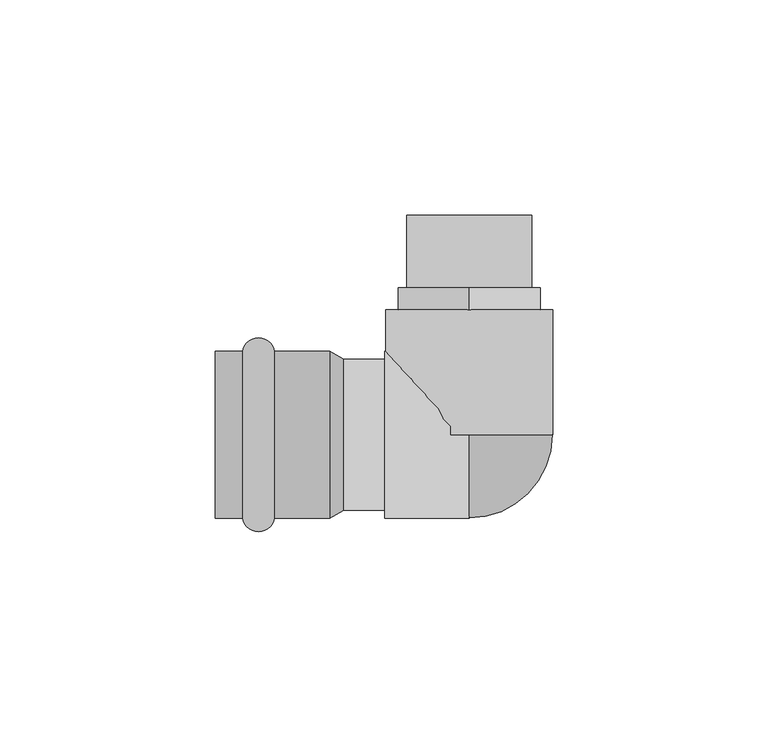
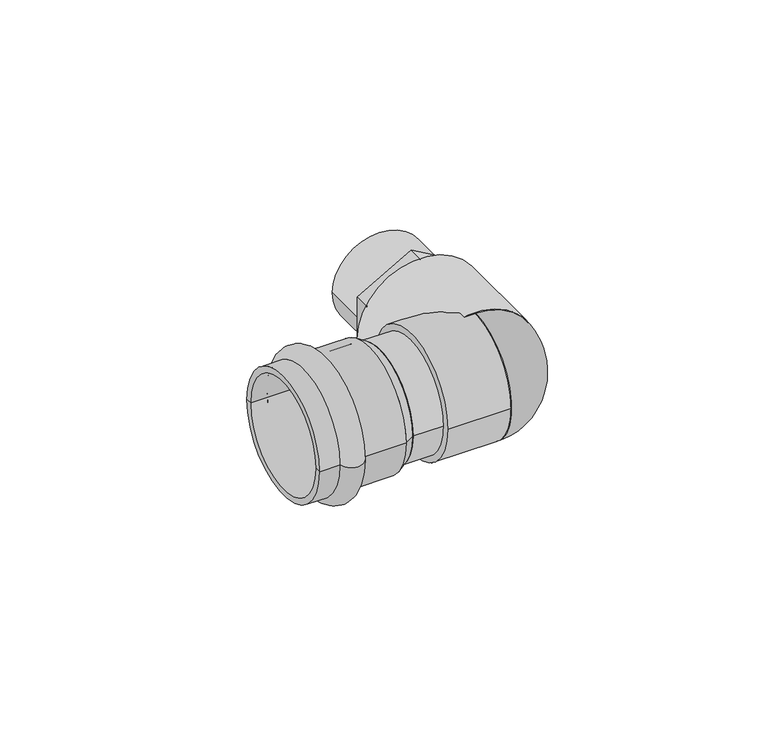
"""IFC4 building model written with IfcOpenShell, lengths in millimetres: pipe fitting geometry, VALTEC_VTi.953.I_Угольник с переходом на наружную резьбу нержавеющая сталь : VTi.953.I."""

from ifc_helpers import new_model, si_unit, point, frame, origin, origin_2d, place, context, project, spatial, polyline, circle_curve, ellipse_curve, trimmed, segment, composite_curve, outline, extrude, source, transform, mapped, element, save
from ifc_brep_helpers import plane_surface, cylinder_surface, revolved_surface, advanced_brep


def pipe_fitting_752e0839(model_context):
    return source(origin(), model_context, "Body", "SolidModel", [
        advanced_brep(
        [(-52.6432371, -19.4, 0.0), (-52.6432371, 19.4, 0.0), (-45.2567629, 19.4, 0.0), (-45.2567629, -19.4, 0.0), (-59.0, -19.4, 0.0), (-59.0, 19.4, 0.0), (-59.0, -17.5, 0.0), (-59.0, 17.5, 0.0), (-32.45, -17.5, 0.0), (-32.45, 17.5, 0.0), (-32.45, -19.4, 0.0), (-32.45, 19.4, 0.0)],
        [
            (0, 1, circle_curve(frame((-52.6432371, 0.0, 0.0), z_axis=(1.0, 0.0, 0.0), x_axis=(0.0, 1.0, 0.0)), 19.4)),
            (1, 2, circle_curve(frame((-48.95, 18.75, 0.0), z_axis=(0.0, 0.0, -1.0), x_axis=(1.0, 0.0, 0.0)), 3.75)),
            (2, 3, circle_curve(frame((-45.2567629, 0.0, 0.0), z_axis=(-1.0, 0.0, 0.0), x_axis=(0.0, 1.0, 0.0)), 19.4)),
            (3, 0, circle_curve(frame((-48.95, -18.75, 0.0), z_axis=(0.0, 0.0, -1.0), x_axis=(1.0, 0.0, 0.0)), 3.75)),
            (1, 0, circle_curve(frame((-52.6432371, 0.0, 0.0), z_axis=(1.0, 0.0, 0.0), x_axis=(0.0, 1.0, 0.0)), 19.4)),
            (3, 2, circle_curve(frame((-45.2567629, 0.0, 0.0), z_axis=(-1.0, 0.0, 0.0), x_axis=(0.0, 1.0, 0.0)), 19.4)),
            (4, 5, circle_curve(frame((-59.0, 0.0, 0.0), z_axis=(1.0, 0.0, 0.0), x_axis=(0.0, 1.0, 0.0)), 19.4)),
            (5, 1),
            (0, 4),
            (5, 4, circle_curve(frame((-59.0, 0.0, 0.0), z_axis=(1.0, 0.0, 0.0), x_axis=(0.0, 1.0, 0.0)), 19.4)),
            (6, 7, circle_curve(frame((-59.0, 0.0, 0.0), z_axis=(1.0, 0.0, 0.0), x_axis=(0.0, 1.0, 0.0)), 17.5)),
            (7, 5),
            (4, 6),
            (7, 6, circle_curve(frame((-59.0, 0.0, 0.0), z_axis=(1.0, 0.0, 0.0), x_axis=(0.0, 1.0, 0.0)), 17.5)),
            (8, 9, circle_curve(frame((-32.45, 0.0, 0.0), z_axis=(1.0, 0.0, 0.0), x_axis=(0.0, 1.0, 0.0)), 17.5)),
            (9, 7),
            (6, 8),
            (9, 8, circle_curve(frame((-32.45, 0.0, 0.0), z_axis=(1.0, 0.0, 0.0), x_axis=(0.0, 1.0, 0.0)), 17.5)),
            (10, 11, circle_curve(frame((-32.45, 0.0, 0.0), z_axis=(1.0, 0.0, 0.0), x_axis=(0.0, 1.0, 0.0)), 19.4)),
            (11, 9),
            (8, 10),
            (11, 10, circle_curve(frame((-32.45, 0.0, 0.0), z_axis=(1.0, 0.0, 0.0), x_axis=(0.0, 1.0, 0.0)), 19.4)),
            (2, 11),
            (10, 3),
        ],
        [
            revolved_surface(trimmed(ellipse_curve(frame((-48.95, 18.75, 0.0), z_axis=(0.0, 0.0, 1.0), x_axis=(1.0, 0.0, 0.0)), 3.75, 3.75), [point((-45.2567629, 19.4, 0.0))], [point((-52.6432371, 19.4, 0.0))], True, "CARTESIAN"), (-62.5364426, 0.0, 0.0), (-1.0, 0.0, 0.0)),
            cylinder_surface(frame((-62.5364426, 0.0, 0.0), z_axis=(-1.0, 0.0, 0.0), x_axis=(0.0, 1.0, 0.0)), 19.4),
            plane_surface(frame((-59.0, 0.0, 0.0), z_axis=(-1.0, 0.0, 0.0), x_axis=(0.0, 1.0, 0.0))),
            revolved_surface(polyline([(-59.0, 17.5, 0.0), (-32.45, 17.5, 0.0)]), (-62.5364426, 0.0, 0.0), (-1.0, 0.0, 0.0)),
            plane_surface(frame((-32.45, 0.0, 0.0), z_axis=(1.0, 0.0, 0.0), x_axis=(0.0, 1.0, 0.0))),
        ],
        [
            (0, [[1, 2, 3, 4]]),
            (0, [[5, -4, 6, -2]]),
            (1, [[7, 8, -1, 9]]),
            (1, [[10, -9, -5, -8]]),
            (2, [[11, 12, -7, 13]]),
            (2, [[14, -13, -10, -12]]),
            (3, [[15, 16, -11, 17]]),
            (3, [[18, -17, -14, -16]]),
            (4, [[19, 20, -15, 21]]),
            (4, [[22, -21, -18, -20]]),
            (1, [[-3, 23, -19, 24]]),
            (1, [[-6, -24, -22, -23]]),
        ],
    ),
        extrude(outline(composite_curve([segment(trimmed(circle_curve(origin_2d(), 14.5), [point((0.0, -14.5))], [point((0.0, 14.5))], False, "CARTESIAN"), True, "CONTINUOUS"), segment(trimmed(circle_curve(origin_2d(), 14.5), [point((0.0, 14.5))], [point((0.0, -14.5))], False, "CARTESIAN"), True, "CONTINUOUS")], self_intersect=False), holes=[composite_curve([segment(trimmed(circle_curve(origin_2d(), 12.5), [point((0.0, -12.5))], [point((0.0, 12.5))], True, "CARTESIAN"), True, "CONTINUOUS"), segment(trimmed(circle_curve(origin_2d(), 12.5), [point((0.0, 12.5))], [point((0.0, -12.5))], True, "CARTESIAN"), True, "CONTINUOUS")], self_intersect=False)]), frame((0.0, 34.1428571, 0.0), z_axis=(0.0, 1.0, 0.0), x_axis=(0.0, 0.0, 1.0)), (0.0, 0.0, 1.0), 16.8571429),
        extrude(outline(polyline([(19.0525589, 0.0), (9.5262794, -16.5), (-9.5262794, -16.5), (-19.0525589, 0.0), (-9.5262794, 16.5), (9.5262794, 16.5), (19.0525589, 0.0)]), holes=[composite_curve([segment(trimmed(circle_curve(origin_2d(), 12.5), [point((0.0, -12.5))], [point((0.0, 12.5))], True, "CARTESIAN"), True, "CONTINUOUS"), segment(trimmed(circle_curve(origin_2d(), 12.5), [point((0.0, 12.5))], [point((0.0, -12.5))], True, "CARTESIAN"), True, "CONTINUOUS")], self_intersect=False)]), frame((0.0, 29.0857143, 0.0), z_axis=(0.0, 1.0, 0.0), x_axis=(0.0, 0.0, 1.0)), (0.0, 0.0, 1.0), 5.0571429),
        extrude(outline(composite_curve([segment(trimmed(circle_curve(origin_2d(), 19.4), [point((0.0, -19.4))], [point((0.0, 19.4))], False, "CARTESIAN"), True, "CONTINUOUS"), segment(trimmed(circle_curve(origin_2d(), 19.4), [point((0.0, 19.4))], [point((0.0, -19.4))], False, "CARTESIAN"), True, "CONTINUOUS")], self_intersect=False)), frame((0.0, 0.0, 0.0), z_axis=(0.0, 1.0, 0.0), x_axis=(0.0, 0.0, 1.0)), (0.0, 0.0, 1.0), 29.0857143),
        advanced_brep(
        [(0.0, 0.0, -19.4), (0.0, 0.0, 19.4)],
        [
            (0, 1, circle_curve(frame((0.0, 0.0, 0.0), z_axis=(-1.0, 0.0, 0.0), x_axis=(0.0, -1.0, 0.0)), 19.4)),
            (1, 0),
            (1, 0, circle_curve(frame((0.0, 0.0, 0.0), z_axis=(0.0, 1.0, 0.0), x_axis=(1.0, 0.0, 0.0)), 19.4)),
        ],
        [
            plane_surface(frame((0.0, 0.0, 26.4086047), z_axis=(-1.0, 0.0, 0.0), x_axis=(0.0, -1.0, 0.0))),
            plane_surface(frame((0.0, 0.0, 26.4086047), z_axis=(0.0, 1.0, 0.0), x_axis=(1.0, 0.0, 0.0))),
            revolved_surface(trimmed(ellipse_curve(frame((0.0, 0.0, 0.0), z_axis=(-1.0, 0.0, 0.0), x_axis=(0.0, -1.0, 0.0)), 19.4, 19.4), [point((0.0, 0.0, -19.4))], [point((0.0, 0.0, 19.4))], True, "CARTESIAN"), (0.0, 0.0, 26.4086047), (0.0, 0.0, 1.0)),
        ],
        [
            (0, [[1, 2]]),
            (1, [[3, -2]]),
            (2, [[-1, -3]]),
        ],
    ),
        extrude(outline(composite_curve([segment(trimmed(circle_curve(origin_2d(), 19.4), [point((-19.4, 0.0))], [point((19.4, 0.0))], False, "CARTESIAN"), True, "CONTINUOUS"), segment(trimmed(circle_curve(origin_2d(), 19.4), [point((19.4, 0.0))], [point((-19.4, 0.0))], False, "CARTESIAN"), True, "CONTINUOUS")], self_intersect=False)), frame((-19.6390217, 0.0, 0.0), z_axis=(1.0, 0.0, 0.0), x_axis=(0.0, 1.0, 0.0)), (0.0, 0.0, 1.0), 19.6390217),
        extrude(outline(composite_curve([segment(trimmed(circle_curve(origin_2d(), 17.5), [point((-17.5, 0.0))], [point((17.5, 0.0))], False, "CARTESIAN"), True, "CONTINUOUS"), segment(trimmed(circle_curve(origin_2d(), 17.5), [point((17.5, 0.0))], [point((-17.5, 0.0))], False, "CARTESIAN"), True, "CONTINUOUS")], self_intersect=False)), frame((-29.205, 0.0, 0.0), z_axis=(1.0, 0.0, 0.0), x_axis=(0.0, 1.0, 0.0)), (0.0, 0.0, 1.0), 9.5659783),
        advanced_brep(
        [(-32.45, -19.4, 0.0), (-32.45, 19.4, 0.0), (-29.205, -17.5, 0.0), (-29.205, 17.5, 0.0)],
        [
            (0, 1, circle_curve(frame((-32.45, 0.0, 0.0), z_axis=(-1.0, 0.0, 0.0), x_axis=(0.0, -1.0, 0.0)), 19.4)),
            (1, 0, circle_curve(frame((-32.45, 0.0, 0.0), z_axis=(-1.0, 0.0, 0.0), x_axis=(0.0, 1.0, 0.0)), 19.4)),
            (2, 3, circle_curve(frame((-29.205, 0.0, 0.0), z_axis=(1.0, 0.0, 0.0), x_axis=(0.0, 1.0, 0.0)), 17.5)),
            (3, 2, circle_curve(frame((-29.205, 0.0, 0.0), z_axis=(1.0, 0.0, 0.0), x_axis=(0.0, -1.0, 0.0)), 17.5)),
            (2, 0),
            (1, 3),
        ],
        [
            plane_surface(frame((-32.45, 0.0, 0.0), z_axis=(-1.0, 0.0, 0.0), x_axis=(0.0, 0.0, -1.0))),
            plane_surface(frame((-29.205, 0.0, 0.0), z_axis=(1.0, 0.0, 0.0), x_axis=(0.0, 0.0, -1.0))),
            revolved_surface(polyline([(-29.205, -17.50000000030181, 0.0), (-32.45, -19.4, 0.0)]), (0.6831579, 0.0, 0.0), (-1.0, 0.0, 0.0)),
            revolved_surface(polyline([(-29.205, 17.50000000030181, 0.0), (-32.45, 19.4, 0.0)]), (0.6831579, 0.0, 0.0), (-1.0, 0.0, 0.0)),
        ],
        [
            (0, [[1, 2]]),
            (1, [[3, 4]]),
            (2, [[-3, 5, -2, 6]]),
            (3, [[-4, -6, -1, -5]]),
        ],
    ),
    ])


if __name__ == "__main__":
    model = new_model("IFC4")
    model_context = context("Model", 3, world=origin())
    ifc_project = project(units=[si_unit("LENGTHUNIT", "METRE", prefix="MILLI")], contexts=[model_context])
    site = spatial("IfcSite", under=ifc_project)
    building = spatial("IfcBuilding", under=site)
    placement = place(None, origin())
    pipe_fitting_shape = pipe_fitting_752e0839(model_context)
    element("IfcPipeFitting", 1, ObjectType="VALTEC_VTi.953.I_Угольник с переходом на наружную резьбу нержавеющая сталь : VTi.953.I", at=placement, inside=building, context=model_context, shape_type="MappedRepresentation", body=[
        mapped(pipe_fitting_shape, transform((0.0, 0.0, 0.0), x_axis=(1.0, 0.0, 0.0), y_axis=(0.0, 1.0, 0.0), z_axis=(0.0, 0.0, 1.0))),
    ])
    save(model, "model.ifc")
